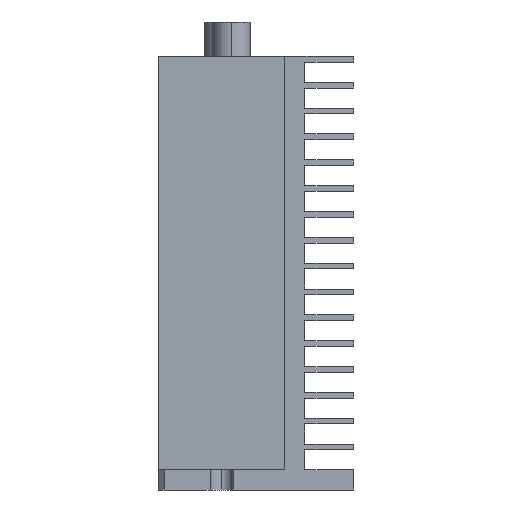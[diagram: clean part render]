
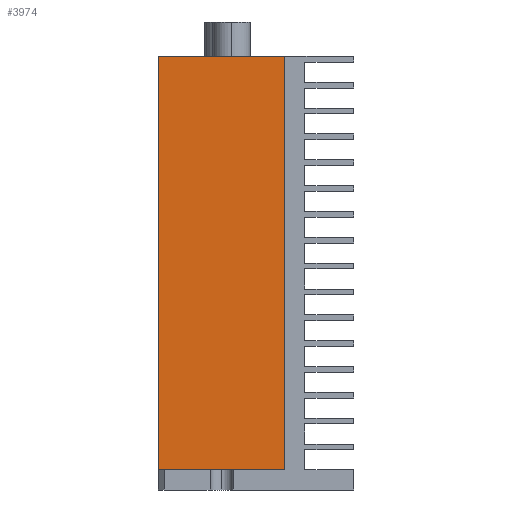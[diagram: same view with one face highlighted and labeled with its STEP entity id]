
A CAD part, left-side view. The second image highlights one B-rep face of the part: STEP entity #3974.
In plain terms, the highlighted planar face has unit normal (-1, 0, 0).
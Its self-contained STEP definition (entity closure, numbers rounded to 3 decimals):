
#96 = DIRECTION ( 'NONE',  ( 0., 0., 1. ) ) ;
#250 = CARTESIAN_POINT ( 'NONE',  ( -52., 22., -36.5 ) ) ;
#368 = CARTESIAN_POINT ( 'NONE',  ( -52., 0., 35.5 ) ) ;
#725 = VECTOR ( 'NONE', #2644, 1000. ) ;
#755 = DIRECTION ( 'NONE',  ( 0., 0., -1. ) ) ;
#1091 = EDGE_CURVE ( 'NONE', #7136, #8190, #2113, .T. ) ;
#1866 = CARTESIAN_POINT ( 'NONE',  ( -52., 21., -36.5 ) ) ;
#2041 = PLANE ( 'NONE',  #4078 ) ;
#2113 = LINE ( 'NONE', #6707, #6699 ) ;
#2637 = EDGE_LOOP ( 'NONE', ( #7024, #5602, #6322, #4955 ) ) ;
#2644 = DIRECTION ( 'NONE',  ( 0., -1., 0. ) ) ;
#3214 = LINE ( 'NONE', #8415, #725 ) ;
#3449 = CARTESIAN_POINT ( 'NONE',  ( -52., 0., -36.5 ) ) ;
#3974 = ADVANCED_FACE ( 'NONE', ( #6596 ), #2041, .F. ) ;
#4078 = AXIS2_PLACEMENT_3D ( 'NONE', #6080, #7280, #755 ) ;
#4082 = VECTOR ( 'NONE', #7465, 1000. ) ;
#4341 = VERTEX_POINT ( 'NONE', #7137 ) ;
#4400 = EDGE_CURVE ( 'NONE', #4341, #5980, #6192, .T. ) ;
#4955 = ORIENTED_EDGE ( 'NONE', *, *, #1091, .T. ) ;
#5482 = EDGE_CURVE ( 'NONE', #4341, #7136, #6426, .T. ) ;
#5493 = CARTESIAN_POINT ( 'NONE',  ( -52., 22., 35.5 ) ) ;
#5602 = ORIENTED_EDGE ( 'NONE', *, *, #4400, .F. ) ;
#5980 = VERTEX_POINT ( 'NONE', #5493 ) ;
#6080 = CARTESIAN_POINT ( 'NONE',  ( -52., 21., 36.5 ) ) ;
#6192 = LINE ( 'NONE', #250, #4082 ) ;
#6322 = ORIENTED_EDGE ( 'NONE', *, *, #5482, .T. ) ;
#6426 = LINE ( 'NONE', #1866, #7784 ) ;
#6596 = FACE_OUTER_BOUND ( 'NONE', #2637, .T. ) ;
#6699 = VECTOR ( 'NONE', #96, 1000. ) ;
#6707 = CARTESIAN_POINT ( 'NONE',  ( -52., 0., 36.5 ) ) ;
#7024 = ORIENTED_EDGE ( 'NONE', *, *, #7858, .F. ) ;
#7136 = VERTEX_POINT ( 'NONE', #3449 ) ;
#7137 = CARTESIAN_POINT ( 'NONE',  ( -52., 22., -36.5 ) ) ;
#7280 = DIRECTION ( 'NONE',  ( 1., 0., 0. ) ) ;
#7465 = DIRECTION ( 'NONE',  ( 0., 0., 1. ) ) ;
#7758 = DIRECTION ( 'NONE',  ( 0., -1., 0. ) ) ;
#7784 = VECTOR ( 'NONE', #7758, 1000. ) ;
#7858 = EDGE_CURVE ( 'NONE', #5980, #8190, #3214, .T. ) ;
#8190 = VERTEX_POINT ( 'NONE', #368 ) ;
#8415 = CARTESIAN_POINT ( 'NONE',  ( -52., 21., 35.5 ) ) ;
